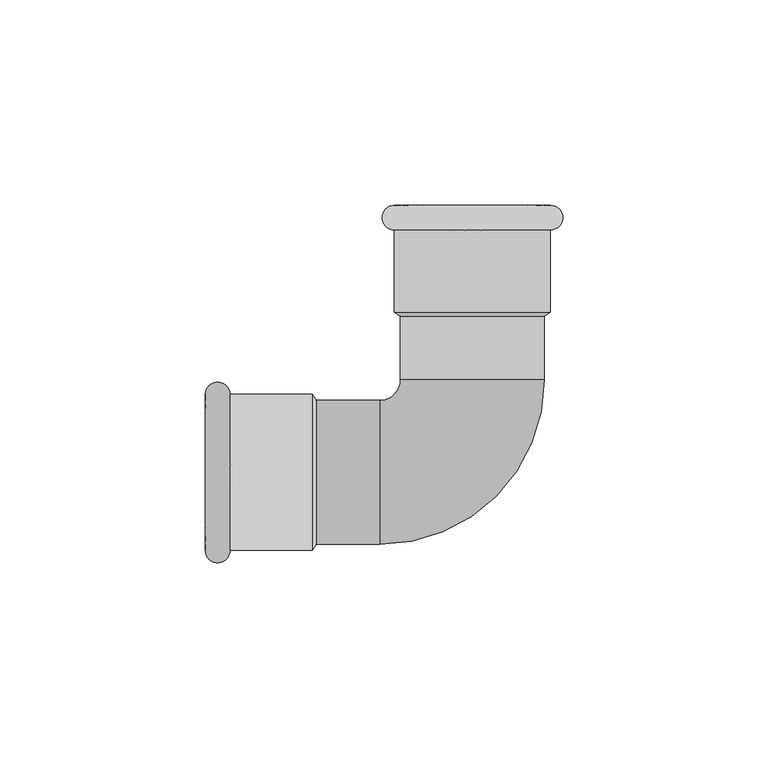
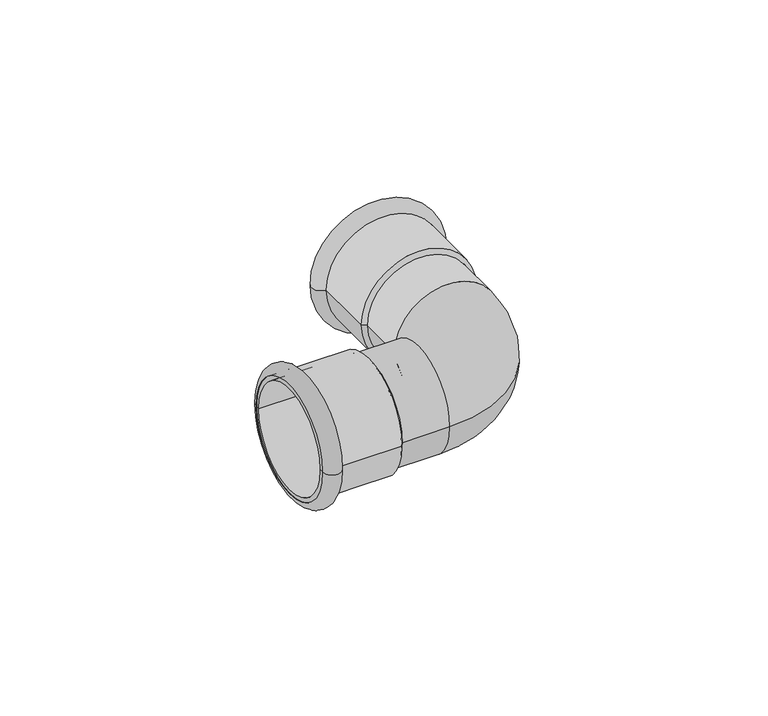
"""IFC4 building model written with IfcOpenShell, lengths in millimetres: pipe fitting geometry, NLRS_50_PIF_UN_Mapress koper bocht_geb : DN10-100 / d12-108 (45° & 90°)."""

from ifc_helpers import new_model, si_unit, point, frame, origin, place, context, project, spatial, polyline, circle_curve, ellipse_curve, trimmed, source, transform, mapped, element, save
from ifc_brep_helpers import plane_surface, cylinder_surface, revolved_surface, advanced_brep


def pipe_fitting_d23605d3(model_context):
    return source(origin(), model_context, "Body", "AdvancedBrep", [
        advanced_brep(
        [(19.0, 65.0, 0.0), (-19.0, 65.0, 0.0), (-19.0, 59.0, 0.0), (19.0, 59.0, 0.0)],
        [
            (0, 1, circle_curve(frame((0.0, 65.0, 0.0), z_axis=(0.0, 1.0, 0.0), x_axis=(-1.0, 0.0, 0.0)), 19.0)),
            (1, 2),
            (2, 3, circle_curve(frame((0.0, 59.0, 0.0), z_axis=(0.0, -1.0, 0.0), x_axis=(-1.0, 0.0, 0.0)), 19.0)),
            (3, 0),
            (1, 0, circle_curve(frame((0.0, 65.0, 0.0), z_axis=(0.0, 1.0, 0.0), x_axis=(-1.0, 0.0, 0.0)), 19.0)),
            (3, 2, circle_curve(frame((0.0, 59.0, 0.0), z_axis=(0.0, -1.0, 0.0), x_axis=(-1.0, 0.0, 0.0)), 19.0)),
            (2, 1, circle_curve(frame((-19.0, 62.0, 0.0), z_axis=(0.0, 0.0, -1.0), x_axis=(0.0, 1.0, 0.0)), 3.0)),
            (0, 3, circle_curve(frame((19.0, 62.0, 0.0), z_axis=(0.0, 0.0, -1.0), x_axis=(0.0, 1.0, 0.0)), 3.0)),
        ],
        [
            revolved_surface(polyline([(-19.0, 59.0, 0.0), (-19.0, 65.0, 0.0)]), (0.0, 39.0, 0.0), (0.0, -1.0, 0.0)),
            revolved_surface(trimmed(ellipse_curve(frame((-19.0, 62.0, 0.0), z_axis=(0.0, 0.0, 1.0), x_axis=(0.0, 1.0, 0.0)), 3.0, 3.0), [point((-19.0, 65.0, 0.0))], [point((-19.0, 59.0, 0.0))], True, "CARTESIAN"), (0.0, 39.0, 0.0), (0.0, -1.0, 0.0)),
        ],
        [
            (0, [[1, 2, 3, 4]]),
            (0, [[5, -4, 6, -2]]),
            (1, [[-3, 7, -1, 8]]),
            (1, [[-6, -8, -5, -7]]),
        ],
    ),
        advanced_brep(
        [(17.5, 65.0, 0.0), (-17.5, 65.0, 0.0), (-17.5, 38.0, 0.0), (17.5, 38.0, 0.0), (19.0, 65.0, 0.0), (-19.0, 65.0, 0.0), (19.0, 39.0, 0.0), (-19.0, 39.0, 0.0)],
        [
            (0, 1, circle_curve(frame((0.0, 65.0, 0.0), z_axis=(0.0, 1.0, 0.0), x_axis=(-1.0, 0.0, 0.0)), 17.5)),
            (1, 2),
            (2, 3, circle_curve(frame((0.0, 38.0, 0.0), z_axis=(0.0, -1.0, 0.0), x_axis=(-1.0, 0.0, 0.0)), 17.5)),
            (3, 0),
            (1, 0, circle_curve(frame((0.0, 65.0, 0.0), z_axis=(0.0, 1.0, 0.0), x_axis=(-1.0, 0.0, 0.0)), 17.5)),
            (3, 2, circle_curve(frame((0.0, 38.0, 0.0), z_axis=(0.0, -1.0, 0.0), x_axis=(-1.0, 0.0, 0.0)), 17.5)),
            (4, 5, circle_curve(frame((0.0, 65.0, 0.0), z_axis=(0.0, 1.0, 0.0), x_axis=(-1.0, 0.0, 0.0)), 19.0)),
            (5, 1),
            (0, 4),
            (5, 4, circle_curve(frame((0.0, 65.0, 0.0), z_axis=(0.0, 1.0, 0.0), x_axis=(-1.0, 0.0, 0.0)), 19.0)),
            (6, 7, circle_curve(frame((0.0, 39.0, 0.0), z_axis=(0.0, 1.0, 0.0), x_axis=(-1.0, 0.0, 0.0)), 19.0)),
            (7, 5),
            (4, 6),
            (7, 6, circle_curve(frame((0.0, 39.0, 0.0), z_axis=(0.0, 1.0, 0.0), x_axis=(-1.0, 0.0, 0.0)), 19.0)),
            (2, 7),
            (6, 3),
        ],
        [
            revolved_surface(polyline([(-17.5, 38.0, 0.0), (-17.5, 65.0, 0.0)]), (0.0, 39.0, 0.0), (0.0, -1.0, 0.0)),
            plane_surface(frame((0.0, 65.0, 0.0), z_axis=(0.0, 1.0, 0.0), x_axis=(-1.0, 0.0, 0.0))),
            cylinder_surface(frame((0.0, 39.0, 0.0), z_axis=(0.0, -1.0, 0.0), x_axis=(-1.0, 0.0, 0.0)), 19.0),
            revolved_surface(polyline([(-19.0, 39.0, 0.0), (-17.5, 38.0, 0.0)]), (0.0, 39.0, 0.0), (0.0, -1.0, 0.0)),
        ],
        [
            (0, [[1, 2, 3, 4]]),
            (0, [[5, -4, 6, -2]]),
            (1, [[7, 8, -1, 9]]),
            (1, [[10, -9, -5, -8]]),
            (2, [[11, 12, -7, 13]]),
            (2, [[14, -13, -10, -12]]),
            (3, [[-3, 15, -11, 16]]),
            (3, [[-6, -16, -14, -15]]),
        ],
    ),
        advanced_brep(
        [(-65.0, 19.0, 0.0), (-65.0, -19.0, 0.0), (-59.0, -19.0, 0.0), (-59.0, 19.0, 0.0)],
        [
            (0, 1, circle_curve(frame((-65.0, 0.0, 0.0), z_axis=(-1.0, 0.0, 0.0), x_axis=(0.0, -1.0, 0.0)), 19.0)),
            (1, 2),
            (2, 3, circle_curve(frame((-59.0, 0.0, 0.0), z_axis=(1.0, 0.0, 0.0), x_axis=(0.0, -1.0, 0.0)), 19.0)),
            (3, 0),
            (1, 0, circle_curve(frame((-65.0, 0.0, 0.0), z_axis=(-1.0, 0.0, 0.0), x_axis=(0.0, -1.0, 0.0)), 19.0)),
            (3, 2, circle_curve(frame((-59.0, 0.0, 0.0), z_axis=(1.0, 0.0, 0.0), x_axis=(0.0, -1.0, 0.0)), 19.0)),
            (2, 1, circle_curve(frame((-62.0, -19.0, 0.0), z_axis=(0.0, 0.0, -1.0), x_axis=(-1.0, 0.0, 0.0)), 3.0)),
            (0, 3, circle_curve(frame((-62.0, 19.0, 0.0), z_axis=(0.0, 0.0, -1.0), x_axis=(-1.0, 0.0, 0.0)), 3.0)),
        ],
        [
            revolved_surface(polyline([(-59.0, -19.0, 0.0), (-65.0, -19.0, 0.0)]), (-39.0, 0.0, 0.0), (1.0, 0.0, 0.0)),
            revolved_surface(trimmed(ellipse_curve(frame((-62.0, -19.0, 0.0), z_axis=(0.0, 0.0, 1.0), x_axis=(-1.0, 0.0, 0.0)), 3.0, 3.0), [point((-65.0, -19.0, 0.0))], [point((-59.0, -19.0, 0.0))], True, "CARTESIAN"), (-39.0, 0.0, 0.0), (1.0, 0.0, 0.0)),
        ],
        [
            (0, [[1, 2, 3, 4]]),
            (0, [[5, -4, 6, -2]]),
            (1, [[-3, 7, -1, 8]]),
            (1, [[-6, -8, -5, -7]]),
        ],
    ),
        advanced_brep(
        [(-65.0, 17.5, 0.0), (-65.0, -17.5, 0.0), (-38.0, -17.5, 0.0), (-38.0, 17.5, 0.0), (-65.0, 19.0, 0.0), (-65.0, -19.0, 0.0), (-39.0, 19.0, 0.0), (-39.0, -19.0, 0.0)],
        [
            (0, 1, circle_curve(frame((-65.0, 0.0, 0.0), z_axis=(-1.0, 0.0, 0.0), x_axis=(0.0, -1.0, 0.0)), 17.5)),
            (1, 2),
            (2, 3, circle_curve(frame((-38.0, 0.0, 0.0), z_axis=(1.0, 0.0, 0.0), x_axis=(0.0, -1.0, 0.0)), 17.5)),
            (3, 0),
            (1, 0, circle_curve(frame((-65.0, 0.0, 0.0), z_axis=(-1.0, 0.0, 0.0), x_axis=(0.0, -1.0, 0.0)), 17.5)),
            (3, 2, circle_curve(frame((-38.0, 0.0, 0.0), z_axis=(1.0, 0.0, 0.0), x_axis=(0.0, -1.0, 0.0)), 17.5)),
            (4, 5, circle_curve(frame((-65.0, 0.0, 0.0), z_axis=(-1.0, 0.0, 0.0), x_axis=(0.0, -1.0, 0.0)), 19.0)),
            (5, 1),
            (0, 4),
            (5, 4, circle_curve(frame((-65.0, 0.0, 0.0), z_axis=(-1.0, 0.0, 0.0), x_axis=(0.0, -1.0, 0.0)), 19.0)),
            (6, 7, circle_curve(frame((-39.0, 0.0, 0.0), z_axis=(-1.0, 0.0, 0.0), x_axis=(0.0, -1.0, 0.0)), 19.0)),
            (7, 5),
            (4, 6),
            (7, 6, circle_curve(frame((-39.0, 0.0, 0.0), z_axis=(-1.0, 0.0, 0.0), x_axis=(0.0, -1.0, 0.0)), 19.0)),
            (2, 7),
            (6, 3),
        ],
        [
            revolved_surface(polyline([(-38.0, -17.5, 0.0), (-65.0, -17.5, 0.0)]), (-39.0, 0.0, 0.0), (1.0, 0.0, 0.0)),
            plane_surface(frame((-65.0, 0.0, 0.0), z_axis=(-1.0, 0.0, 0.0), x_axis=(0.0, -1.0, 0.0))),
            cylinder_surface(frame((-39.0, 0.0, 0.0), z_axis=(1.0, 0.0, 0.0), x_axis=(0.0, -1.0, 0.0)), 19.0),
            revolved_surface(polyline([(-39.0, -19.0, 0.0), (-38.0, -17.5, 0.0)]), (-39.0, 0.0, 0.0), (1.0, 0.0, 0.0)),
        ],
        [
            (0, [[1, 2, 3, 4]]),
            (0, [[5, -4, 6, -2]]),
            (1, [[7, 8, -1, 9]]),
            (1, [[10, -9, -5, -8]]),
            (2, [[11, 12, -7, 13]]),
            (2, [[14, -13, -10, -12]]),
            (3, [[-3, 15, -11, 16]]),
            (3, [[-6, -16, -14, -15]]),
        ],
    ),
        advanced_brep(
        [(-39.0, -17.5, 0.0), (-39.0, 17.5, 0.0), (-22.5, -17.5, 0.0), (-22.5, 17.5, 0.0), (-17.5, 22.5, 0.0), (17.5, 22.5, 0.0), (17.5, 39.0, 0.0), (-17.5, 39.0, 0.0)],
        [
            (0, 1, circle_curve(frame((-39.0, 0.0, 0.0), z_axis=(-1.0, 0.0, 0.0), x_axis=(0.0, 1.0, 0.0)), 17.5)),
            (1, 0, circle_curve(frame((-39.0, 0.0, 0.0), z_axis=(-1.0, 0.0, 0.0), x_axis=(0.0, 1.0, 0.0)), 17.5)),
            (0, 2),
            (2, 3, circle_curve(frame((-22.5, 0.0, 0.0), z_axis=(-1.0, 0.0, 0.0), x_axis=(0.0, 1.0, 0.0)), 17.5)),
            (3, 1),
            (3, 2, circle_curve(frame((-22.5, 0.0, 0.0), z_axis=(-1.0, 0.0, 0.0), x_axis=(0.0, 1.0, 0.0)), 17.5)),
            (4, 3, circle_curve(frame((-22.5, 22.5, 0.0), z_axis=(0.0, 0.0, -1.0), x_axis=(0.0, -1.0, 0.0)), 5.0)),
            (2, 5, circle_curve(frame((-22.5, 22.5, 0.0), z_axis=(0.0, 0.0, 1.0), x_axis=(0.0, -1.0, 0.0)), 40.0)),
            (5, 4, circle_curve(frame((0.0, 22.5, 0.0), z_axis=(0.0, -1.0, 0.0), x_axis=(-1.0, 0.0, 0.0)), 17.5)),
            (4, 5, circle_curve(frame((0.0, 22.5, 0.0), z_axis=(-1.3886669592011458e-12, -1.0, 0.0), x_axis=(-1.0, 1.3886669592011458e-12, 0.0)), 17.5)),
            (6, 7, circle_curve(frame((0.0, 39.0, 0.0), z_axis=(0.0, 1.0, 0.0), x_axis=(-1.0, 0.0, 0.0)), 17.5)),
            (7, 6, circle_curve(frame((0.0, 39.0, 0.0), z_axis=(0.0, 1.0, 0.0), x_axis=(-1.0, 0.0, 0.0)), 17.5)),
            (5, 6),
            (7, 4),
        ],
        [
            plane_surface(frame((-39.0, 0.0, 0.0), z_axis=(-1.0, 0.0, 0.0), x_axis=(0.0, 0.0, 1.0))),
            cylinder_surface(frame((-39.0, 0.0, 0.0), z_axis=(-1.0, 0.0, 0.0), x_axis=(0.0, 1.0, 0.0)), 17.5),
            revolved_surface(trimmed(ellipse_curve(frame((-22.5, 0.0, 0.0), z_axis=(-1.0, 0.0, 0.0), x_axis=(0.0, 1.0, 0.0)), 17.5, 17.5), [point((-22.5, -17.5, 0.0))], [point((-22.5, 17.5, 0.0))], True, "CARTESIAN"), (-22.5, 22.5, 0.0), (0.0, 0.0, 1.0)),
            revolved_surface(trimmed(ellipse_curve(frame((-22.5, 0.0, 0.0), z_axis=(-1.0, 0.0, 0.0), x_axis=(0.0, 1.0, 0.0)), 17.5, 17.5), [point((-22.5, 17.5, 0.0))], [point((-22.5, -17.5, 0.0))], True, "CARTESIAN"), (-22.5, 22.5, 0.0), (0.0, 0.0, 1.0)),
            plane_surface(frame((0.0, 39.0, 0.0), z_axis=(0.0, 1.0, 0.0), x_axis=(0.0, 0.0, 1.0))),
            cylinder_surface(frame((0.0, 22.5, 0.0), z_axis=(0.0, -1.0, 0.0), x_axis=(-1.0, 0.0, 0.0)), 17.5),
        ],
        [
            (0, [[1, 2]]),
            (1, [[-1, 3, 4, 5]]),
            (1, [[-2, -5, 6, -3]]),
            (2, [[7, -4, 8, 9]]),
            (3, [[-8, -6, -7, 10]]),
            (4, [[11, 12]]),
            (5, [[-9, 13, -12, 14]]),
            (5, [[-10, -14, -11, -13]]),
        ],
    ),
    ])


if __name__ == "__main__":
    model = new_model("IFC4")
    model_context = context("Model", 3, world=origin())
    ifc_project = project(units=[si_unit("LENGTHUNIT", "METRE", prefix="MILLI")], contexts=[model_context])
    site = spatial("IfcSite", under=ifc_project)
    building = spatial("IfcBuilding", under=site)
    placement = place(None, origin())
    pipe_fitting_shape = pipe_fitting_d23605d3(model_context)
    element("IfcPipeFitting", 1, ObjectType="NLRS_50_PIF_UN_Mapress koper bocht_geb : DN10-100 / d12-108 (45° & 90°)", at=placement, inside=building, context=model_context, shape_type="MappedRepresentation", body=[
        mapped(pipe_fitting_shape, transform((0.0, 0.0, 0.0), x_axis=(1.0, 0.0, 0.0), y_axis=(0.0, 1.0, 0.0), z_axis=(0.0, 0.0, 1.0))),
    ])
    save(model, "model.ifc")
